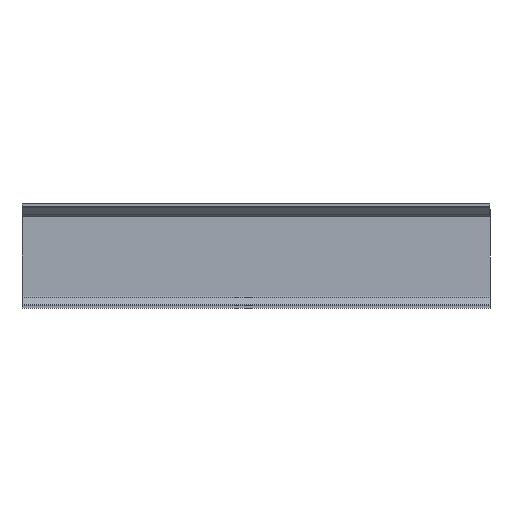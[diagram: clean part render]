
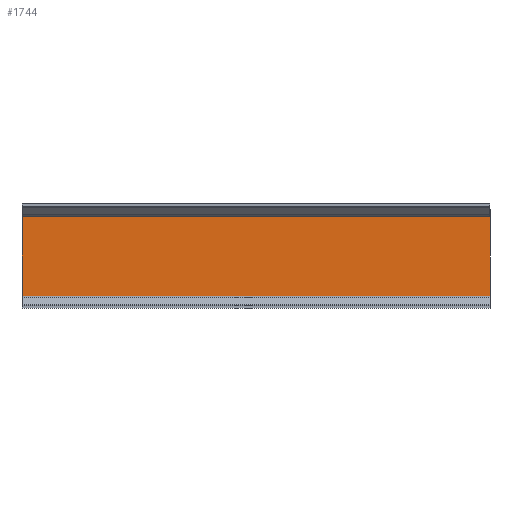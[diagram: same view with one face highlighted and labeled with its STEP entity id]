
A CAD part, front view. The second image highlights one B-rep face of the part: STEP entity #1744.
In plain terms, the highlighted planar face has unit normal (0, -1, 0).
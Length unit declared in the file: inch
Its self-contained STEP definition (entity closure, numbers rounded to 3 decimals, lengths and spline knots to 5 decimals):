
#102 = DIRECTION ( 'NONE',  ( 0., 0., -1. ) ) ;
#128 = PLANE ( 'NONE',  #1084 ) ;
#133 = DIRECTION ( 'NONE',  ( 0., -1., 0. ) ) ;
#134 = CARTESIAN_POINT ( 'NONE',  ( 0., -0.036, 0. ) ) ;
#143 = CARTESIAN_POINT ( 'NONE',  ( 6., -0.036, 0. ) ) ;
#158 = DIRECTION ( 'NONE',  ( 0., 0., -1. ) ) ;
#336 = DIRECTION ( 'NONE',  ( 0., 0., 1. ) ) ;
#337 = CARTESIAN_POINT ( 'NONE',  ( 0., -0.036, 0. ) ) ;
#338 = CARTESIAN_POINT ( 'NONE',  ( 0., -0.036, -0.029 ) ) ;
#341 = DIRECTION ( 'NONE',  ( 1., 0., 0. ) ) ;
#366 = CARTESIAN_POINT ( 'NONE',  ( 6., -0.036, -1.211 ) ) ;
#372 = DIRECTION ( 'NONE',  ( -1., 0., 0. ) ) ;
#423 = FACE_OUTER_BOUND ( 'NONE', #1329, .T. ) ;
#446 = LINE ( 'NONE', #366, #455 ) ;
#455 = VECTOR ( 'NONE', #372, 39.37008 ) ;
#471 = LINE ( 'NONE', #337, #495 ) ;
#487 = VERTEX_POINT ( 'NONE', #1622 ) ;
#495 = VECTOR ( 'NONE', #336, 39.37008 ) ;
#506 = VERTEX_POINT ( 'NONE', #1586 ) ;
#519 = VERTEX_POINT ( 'NONE', #1607 ) ;
#544 = LINE ( 'NONE', #143, #584 ) ;
#557 = VERTEX_POINT ( 'NONE', #1590 ) ;
#584 = VECTOR ( 'NONE', #158, 39.37008 ) ;
#678 = LINE ( 'NONE', #338, #1541 ) ;
#1084 = AXIS2_PLACEMENT_3D ( 'NONE', #134, #133, #102 ) ;
#1187 = EDGE_CURVE ( 'NONE', #506, #557, #544, .T. ) ;
#1268 = ORIENTED_EDGE ( 'NONE', *, *, #1785, .F. ) ;
#1291 = ORIENTED_EDGE ( 'NONE', *, *, #1779, .F. ) ;
#1292 = ORIENTED_EDGE ( 'NONE', *, *, #1793, .F. ) ;
#1297 = ORIENTED_EDGE ( 'NONE', *, *, #1187, .F. ) ;
#1329 = EDGE_LOOP ( 'NONE', ( #1291, #1268, #1297, #1292 ) ) ;
#1541 = VECTOR ( 'NONE', #341, 39.37008 ) ;
#1586 = CARTESIAN_POINT ( 'NONE',  ( 6., -0.036, -0.029 ) ) ;
#1590 = CARTESIAN_POINT ( 'NONE',  ( 6., -0.036, -1.211 ) ) ;
#1607 = CARTESIAN_POINT ( 'NONE',  ( 0., -0.036, -1.211 ) ) ;
#1622 = CARTESIAN_POINT ( 'NONE',  ( 0., -0.036, -0.029 ) ) ;
#1744 = ADVANCED_FACE ( 'NONE', ( #423 ), #128, .T. ) ;
#1779 = EDGE_CURVE ( 'NONE', #519, #487, #471, .T. ) ;
#1785 = EDGE_CURVE ( 'NONE', #557, #519, #446, .T. ) ;
#1793 = EDGE_CURVE ( 'NONE', #487, #506, #678, .T. ) ;
